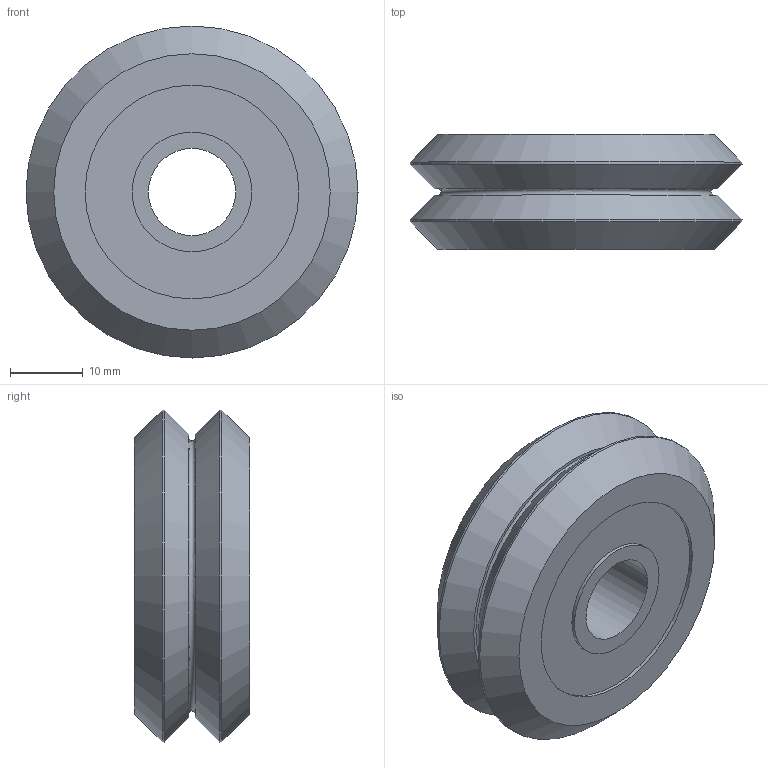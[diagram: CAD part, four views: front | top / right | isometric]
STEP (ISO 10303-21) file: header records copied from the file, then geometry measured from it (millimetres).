
FILE_DESCRIPTION((''),'2;1');
FILE_NAME('C:\Documents and Settings\土屋\My Documents\土屋移動用フォルダ\製品 (図面)\カタログ用3D\リニアガイド\VW\W3UU.stp','2015-02-21T14:28:06',('y'),(''),'Autodesk Inventor 11','Autodesk Inventor 11','');
FILE_SCHEMA(('AUTOMOTIVE_DESIGN { 1 0 10303 214 1 1 1 1 }'));
Length unit declared in the file: millimetre
Products named in the file (1): W3UU
Bounding box: 45.72 x 15.87 x 45.72 mm (x, y, z)
Volume: 19780.5 mm3; surface area: 5839.9 mm2
Topology: 1 solids, 1 shells, 20 faces, 32 edges, 20 vertices
Faces by surface type: plane 8, cylinder 7, cone 4, bspline 1
Full cylindrical faces by diameter (mm): 12 x1, 16.46 x2, 29.46 x2, 45.72 x2
Entity records: 507 total; most frequent: CARTESIAN_POINT 141, DIRECTION 80, AXIS2_PLACEMENT_3D 40, ORIENTED_EDGE 40, EDGE_LOOP 40, VERTEX_POINT 20, CIRCLE 20, EDGE_CURVE 20
